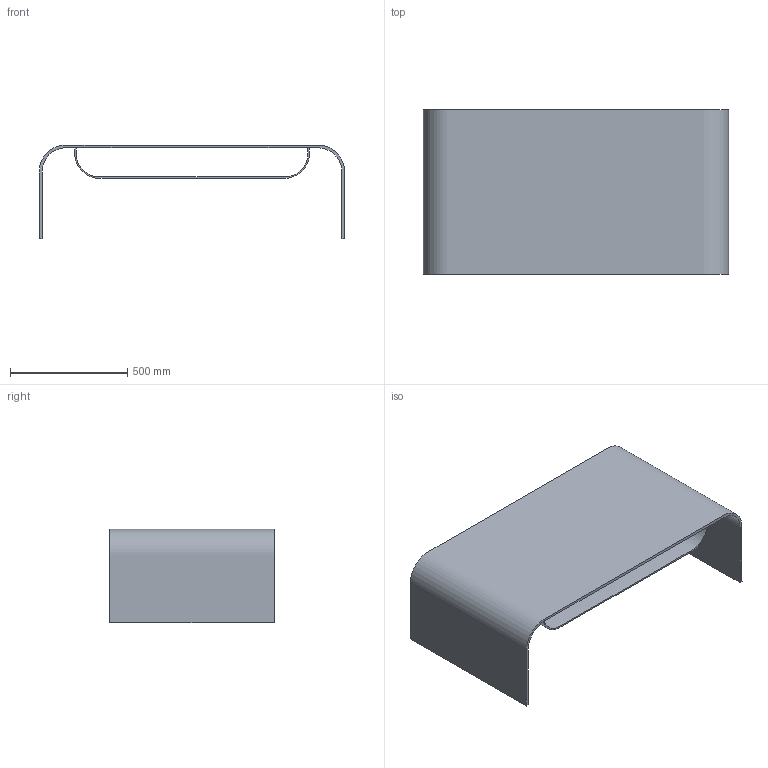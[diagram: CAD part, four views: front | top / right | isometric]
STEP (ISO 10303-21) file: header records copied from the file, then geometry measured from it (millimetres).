
FILE_DESCRIPTION(/* description */ (''),/* implementation_level */ '2;1');
FILE_NAME(/* name */ '0182 - Giano 130x70',/* time_stamp */ '2010-11-03T17:48:47+01:00',/* author */ (''),/* organization */ (''),/* preprocessor_version */ 'ST-DEVELOPER v10',/* originating_system */ '',/* authorisation */ '');
FILE_SCHEMA (('CONFIG_CONTROL_DESIGN'));
Length unit declared in the file: centimetre
Products named in the file (1): 1
Bounding box: 1300 x 700 x 400 mm (x, y, z)
Volume: 10356128.9 mm3; surface area: 4256855 mm2
Topology: 2 solids, 2 shells, 14 faces, 30 edges, 20 vertices
Faces by surface type: plane 8, bspline 6
Entity records: 538 total; most frequent: CARTESIAN_POINT 250, ORIENTED_EDGE 60, EDGE_CURVE 30, VERTEX_POINT 20, B_SPLINE_CURVE_WITH_KNOTS 18, ADVANCED_FACE 14, FACE_OUTER_BOUND 14, EDGE_LOOP 14
